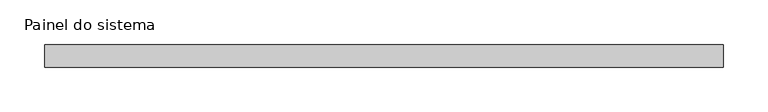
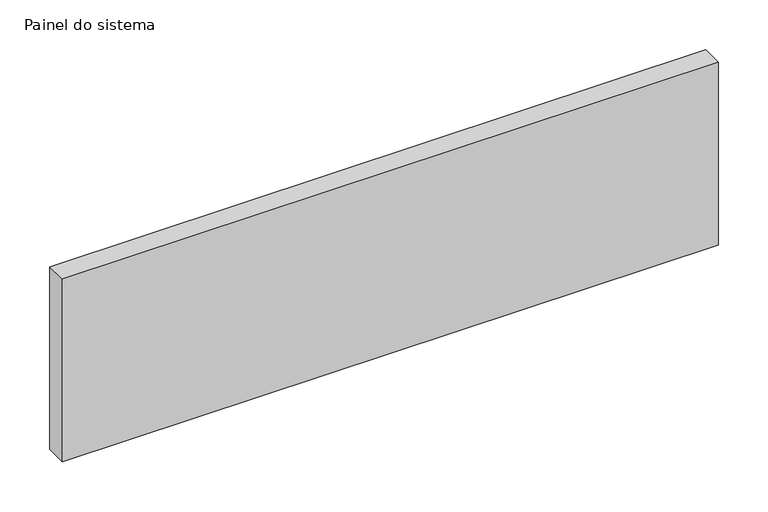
"""IFC4 building model written with IfcOpenShell, lengths in millimetres: plate geometry, Painel do sistema : Envidraçado."""

from ifc_helpers import new_model, si_unit, origin, origin_with_axes, place, context, project, spatial, polyline, outline, extrude, source, transform, mapped, element, save


def painel_do_sistema_12ff04d5(model_context):
    return source(origin(), model_context, "Body", "SweptSolid", [
        extrude(outline(polyline([(379.15, 24.5), (-379.15, 24.5), (-379.15, 49.5), (379.15, 49.5), (379.15, 24.5)])), origin_with_axes(), (0.0, 0.0, 1.0), 223.6217085),
    ])


if __name__ == "__main__":
    model = new_model("IFC4")
    model_context = context("Model", 3, world=origin())
    ifc_project = project(units=[si_unit("LENGTHUNIT", "METRE", prefix="MILLI")], contexts=[model_context])
    site = spatial("IfcSite", under=ifc_project)
    building = spatial("IfcBuilding", under=site)
    placement = place(None, origin())
    painel_do_sistema_shape = painel_do_sistema_12ff04d5(model_context)
    element("IfcPlate", 1, ObjectType="Painel do sistema : Envidraçado", at=placement, inside=building, context=model_context, shape_type="MappedRepresentation", body=[
        mapped(painel_do_sistema_shape, transform((0.0, 0.0, 0.0), x_axis=(1.0, 0.0, 0.0), y_axis=(0.0, 1.0, 0.0), z_axis=(0.0, 0.0, 1.0))),
    ])
    save(model, "model.ifc")
